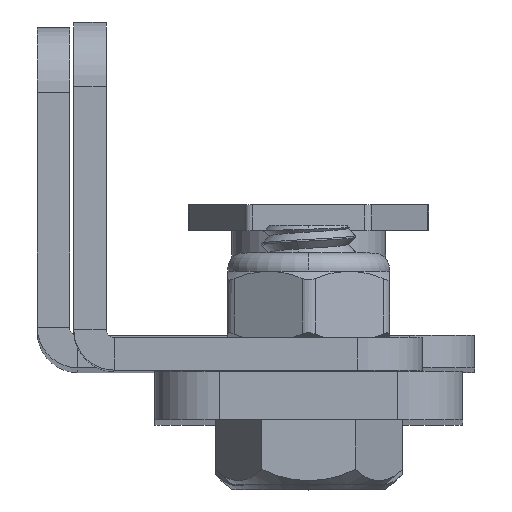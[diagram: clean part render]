
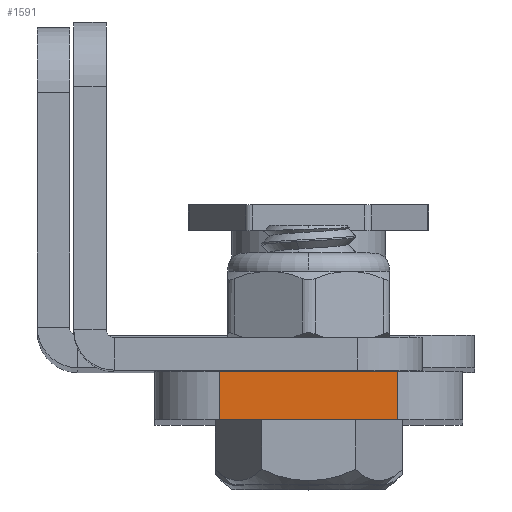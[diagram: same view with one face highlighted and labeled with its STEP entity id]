
A CAD part, top view. The second image highlights one B-rep face of the part: STEP entity #1591.
In plain terms, the highlighted planar face has unit normal (0, 0, 1) as drawn and (1, 0, 0) by its records, which use the part's own axes.
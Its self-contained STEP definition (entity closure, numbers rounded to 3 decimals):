
#895=DIRECTION('',(0.,1.,0.));
#896=VECTOR('',#895,11.);
#897=CARTESIAN_POINT('',(100.,-5.5,0.));
#898=LINE('',#897,#896);
#1018=DIRECTION('',(0.,1.,0.));
#1019=VECTOR('',#1018,11.);
#1020=CARTESIAN_POINT('',(100.,-5.5,3.));
#1021=LINE('',#1020,#1019);
#1095=DIRECTION('',(0.,0.,-1.));
#1096=VECTOR('',#1095,3.);
#1097=CARTESIAN_POINT('',(100.,-5.5,3.));
#1098=LINE('',#1097,#1096);
#1099=DIRECTION('',(0.,0.,-1.));
#1100=VECTOR('',#1099,3.);
#1101=CARTESIAN_POINT('',(100.,5.5,3.));
#1102=LINE('',#1101,#1100);
#1183=CARTESIAN_POINT('',(100.,-5.5,0.));
#1185=VERTEX_POINT('',#1183);
#1189=CARTESIAN_POINT('',(100.,-5.5,3.));
#1190=VERTEX_POINT('',#1189);
#1192=CARTESIAN_POINT('',(100.,5.5,0.));
#1194=VERTEX_POINT('',#1192);
#1195=CARTESIAN_POINT('',(100.,5.5,3.));
#1196=VERTEX_POINT('',#1195);
#1579=CARTESIAN_POINT('',(100.,-9.5,0.));
#1580=DIRECTION('',(1.,0.,0.));
#1581=DIRECTION('',(0.,1.,0.));
#1582=AXIS2_PLACEMENT_3D('',#1579,#1580,#1581);
#1583=PLANE('',#1582);
#1585=ORIENTED_EDGE('',*,*,#1584,.F.);
#1586=ORIENTED_EDGE('',*,*,#1308,.T.);
#1587=ORIENTED_EDGE('',*,*,#1572,.T.);
#1588=ORIENTED_EDGE('',*,*,#1210,.F.);
#1589=EDGE_LOOP('',(#1585,#1586,#1587,#1588));
#1590=FACE_OUTER_BOUND('',#1589,.F.);
#1591=ADVANCED_FACE('',(#1590),#1583,.T.);
#1210=EDGE_CURVE('',#1185,#1194,#898,.T.);
#1308=EDGE_CURVE('',#1190,#1196,#1021,.T.);
#1572=EDGE_CURVE('',#1196,#1194,#1102,.T.);
#1584=EDGE_CURVE('',#1190,#1185,#1098,.T.);
